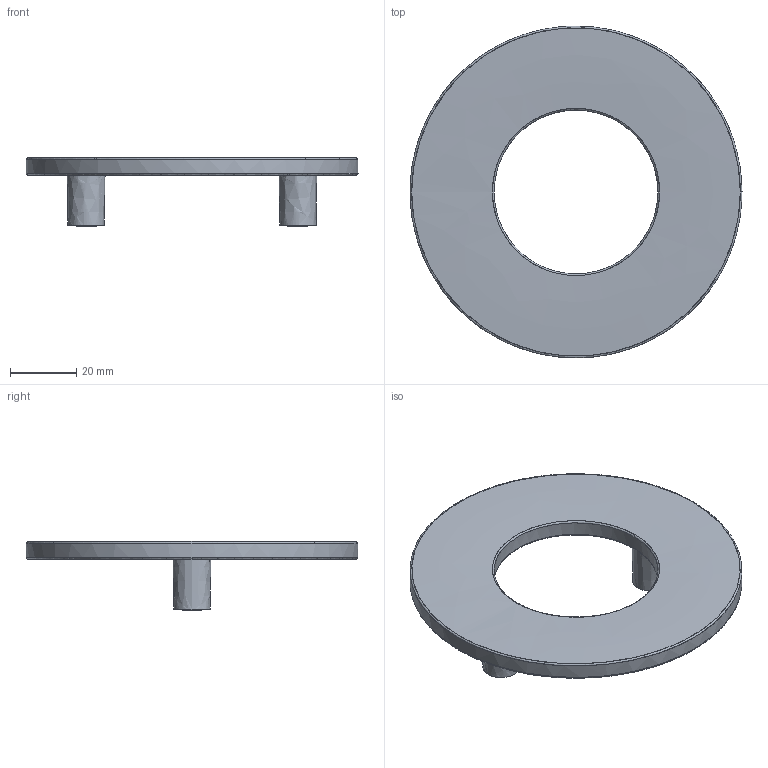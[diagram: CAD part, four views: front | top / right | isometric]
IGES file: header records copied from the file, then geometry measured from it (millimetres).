
Start section: C
Global section: file name: 8154 Final.igs; native system: By Siemens PLM Incorporated; preprocessor: XPlus GENERIC/IGES 16.0.42; author: Author; organization: Title; date: 20231120.130102; units: millimetre
Bounding box: 100.3 x 100.21 x 21 mm (x, y, z)
Surface area: 18447.7 mm2 (no closed solid volume)
Topology: 0 solids, 0 shells, 54 faces, 352 edges, 352 vertices
Faces by surface type: bspline 54
